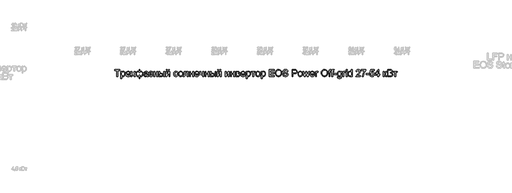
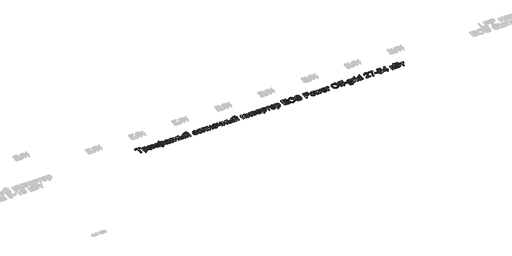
# One storey, part 11 of 26: 1 proxy.
"""IFC4 building model written with IfcOpenShell, lengths in millimetres."""

from ifc_helpers import new_model, si_unit, origin, origin_with_axes, place, context, project, spatial, polyline, outline, extrude, element, save

model = new_model("IFC4")

# Units and contexts
model_context = context("Model", 3, world=origin())
ifc_project = project(units=[si_unit("LENGTHUNIT", "METRE", prefix="MILLI")], contexts=[model_context])

# Site, building, storey
site = spatial("IfcSite", under=ifc_project)
building = spatial("IfcBuilding", under=site)
storey = spatial("IfcBuildingStorey", under=building, Name="Этаж 01", Elevation=0.0)

# Proxy
placement = place(None, origin())
element("IfcBuildingElementProxy", 1, Name="150 мм Arial", ObjectType="150 мм Arial", at=placement, inside=storey, context=model_context, shape_type="SweptSolid", body=[
    extrude(outline(polyline([(6127.3041906, -17235.0508328), (6127.3041906, -17103.2019258), (6077.8608505, -17103.2019258), (6077.8608505, -17084.3663676), (6195.5830889, -17084.3663676), (6195.5830889, -17103.2019258), (6146.1397488, -17103.2019258), (6146.1397488, -17235.0508328), (6127.3041906, -17235.0508328)])), origin_with_axes(), (0.0, 0.0, 1.0), 20.0),
    extrude(outline(polyline([(6214.4186471, -17277.4308387), (6214.4186471, -17124.3919287), (6233.2542052, -17124.3919287), (6233.2542052, -17142.8596048), (6246.2772278, -17127.2430141), (6263.8619872, -17122.0374839), (6276.5999013, -17123.8584998), (6287.7375287, -17129.3215474), (6296.8058199, -17138.095533), (6303.3357253, -17149.8493627), (6308.5964378, -17178.8752522), (6307.1111143, -17194.983885), (6302.6551436, -17209.3910637), (6295.3710801, -17221.3656226), (6285.401478, -17230.1763964), (6273.7902026, -17235.5980573), (6261.5811188, -17237.4052776), (6245.191976, -17232.5676294), (6233.2542052, -17220.335553), (6233.2542052, -17277.4308387), (6214.4186471, -17277.4308387)]), holes=[polyline([(6233.2542052, -17180.6042975), (6235.2913518, -17197.4900811), (6241.4027914, -17209.2990932), (6250.4204988, -17216.2520629), (6261.1764486, -17218.5697194), (6272.1071424, -17216.1692894), (6281.3547761, -17208.9679994), (6287.6593538, -17196.726726), (6289.7608797, -17179.206346), (6287.7099375, -17162.4125329), (6281.5571112, -17150.4379739), (6272.5531993, -17143.264275), (6261.9490008, -17140.8730421), (6251.3034156, -17143.4160263), (6241.9546144, -17151.0449792), (6235.4293075, -17163.5207774), (6233.2542052, -17180.6042975)])]), origin_with_axes(), (0.0, 0.0, 1.0), 20.0),
    extrude(outline(polyline([(6407.2623889, -17202.0886061), (6425.7300651, -17204.4430508), (6419.0759995, -17218.3581873), (6408.4580054, -17228.7600507), (6394.1152061, -17235.2439709), (6376.2867249, -17237.4052776), (6354.1862141, -17233.6758739), (6337.1808689, -17222.4876627), (6326.337547, -17204.567211), (6322.7231064, -17180.6410857), (6326.3743352, -17155.9102186), (6337.3280216, -17137.4149513), (6354.1034406, -17125.8818508), (6375.2198672, -17122.0374839), (6395.6787046, -17125.8726537), (6412.0264608, -17137.3781631), (6422.7456224, -17155.8366422), (6426.3186763, -17180.5307211), (6426.2083117, -17185.6074927), (6341.5586646, -17185.6074927), (6344.8190188, -17199.7065701), (6352.3927894, -17210.0716453), (6363.3234831, -17216.4452009), (6376.6546069, -17218.5697194), (6395.1222831, -17214.6333821), (6407.2623889, -17202.0886061)]), holes=[polyline([(6341.5586646, -17166.7719345), (6407.4831181, -17166.7719345), (6404.9355353, -17156.8207265), (6399.9415372, -17149.7022099), (6388.9602597, -17143.080334), (6375.1462908, -17140.8730421), (6362.4497634, -17142.6342771), (6351.951331, -17147.9179823), (6344.6534719, -17156.1539404), (6341.5586646, -17166.7719345)])]), origin_with_axes(), (0.0, 0.0, 1.0), 20.0),
    extrude(outline(polyline([(6433.3820106, -17235.0508328), (6473.6283009, -17179.4270752), (6435.7364554, -17124.3919287), (6458.3979863, -17124.3919287), (6476.6817214, -17150.8794323), (6485.2165837, -17163.3874202), (6492.6110118, -17153.1603007), (6513.4331327, -17124.3919287), (6536.0946636, -17124.3919287), (6496.2898318, -17179.4270752), (6534.6231357, -17235.0508328), (6511.9616048, -17235.0508328), (6488.8954037, -17201.6103595), (6484.6647607, -17195.5035183), (6456.0435415, -17235.0508328), (6433.3820106, -17235.0508328)])), origin_with_axes(), (0.0, 0.0, 1.0), 20.0),
    extrude(outline(polyline([(6614.6742578, -17084.3663676), (6633.509816, -17084.3663676), (6633.509816, -17135.0237183), (6645.4843749, -17125.2564514), (6659.519073, -17122.0374839), (6676.0047849, -17126.1301711), (6688.6737211, -17138.4082327), (6696.7441324, -17156.8943029), (6699.4342695, -17179.6110161), (6696.5371988, -17203.0221066), (6687.8459867, -17221.4575931), (6674.8505552, -17233.4183565), (6659.0408264, -17237.4052776), (6647.52612, -17235.5658676), (6633.509816, -17225.5226891), (6633.509816, -17277.4308387), (6614.6742578, -17277.4308387), (6614.6742578, -17225.5226891), (6602.6445166, -17234.4254334), (6588.4074834, -17237.4052776), (6572.6253458, -17233.5976989), (6558.9769237, -17222.174963), (6549.5407506, -17203.6613016), (6546.3953595, -17178.5809466), (6549.2418464, -17156.4988298), (6557.7813073, -17138.2978681), (6571.1308252, -17126.10258), (6588.4074834, -17122.0374839), (6602.9940045, -17125.2564514), (6614.6742578, -17135.0237183), (6614.6742578, -17084.3663676)]), holes=[polyline([(6565.2309177, -17178.1762764), (6567.1163129, -17196.6531496), (6572.7724986, -17209.1151522), (6581.2245874, -17216.2060776), (6591.4976921, -17218.5697194), (6601.7202131, -17216.2198732), (6608.990481, -17209.1703345), (6613.3360871, -17197.4211032), (6614.7846224, -17180.9721795), (6613.2625107, -17163.4288069), (6608.6961754, -17150.8978264), (6601.0580255, -17143.3792381), (6590.3204697, -17140.8730421), (6580.2405031, -17143.3194573), (6572.2206756, -17150.6587031), (6566.9783571, -17162.430927), (6565.2309177, -17178.1762764)]), polyline([(6633.3994514, -17180.0524745), (6634.9675484, -17199.1225575), (6639.6718394, -17210.7154388), (6646.7397722, -17216.6061493), (6655.3987947, -17218.5697194), (6665.0786897, -17216.1554938), (6673.2226773, -17208.9128171), (6678.7547028, -17196.5841717), (6680.5987113, -17178.9120404), (6678.8972571, -17162.1550155), (6673.7928944, -17150.2908211), (6666.0213873, -17143.2274868), (6656.3184997, -17140.8730421), (6646.325905, -17143.3240558), (6639.1568046, -17150.6770972), (6634.8387897, -17162.9229691), (6633.3994514, -17180.0524745)])]), origin_with_axes(), (0.0, 0.0, 1.0), 20.0),
    extrude(outline(polyline([(6793.6120603, -17220.9241642), (6775.3467192, -17233.6896694), (6755.1683918, -17237.4052776), (6739.4276409, -17235.1703945), (6727.8163654, -17228.4657451), (6720.6564621, -17218.2846109), (6718.2698277, -17205.6202732), (6721.8750712, -17190.7210524), (6731.3480326, -17179.9053217), (6744.5366021, -17173.7249042), (6760.8337745, -17170.8922129), (6793.5016957, -17164.4174897), (6793.6120603, -17160.223635), (6792.3152762, -17151.8175314), (6788.4249241, -17146.3176956), (6779.7245149, -17142.2342054), (6767.6028032, -17140.8730421), (6748.5465159, -17144.4966797), (6739.4598306, -17157.3541554), (6720.6242724, -17154.9997107), (6728.7728586, -17136.6056109), (6745.1803956, -17125.8266685), (6770.0308244, -17122.0374839), (6792.8579022, -17125.3852101), (6805.7521661, -17133.7913136), (6811.5279134, -17146.575213), (6812.4476184, -17163.0563264), (6812.4476184, -17186.4904095), (6813.4041116, -17219.2135129), (6817.156508, -17235.0508328), (6798.3209498, -17235.0508328), (6793.6120603, -17220.9241642)]), holes=[polyline([(6793.6120603, -17183.2530479), (6763.2250075, -17189.0287952), (6747.0198056, -17192.0822158), (6739.6805598, -17197.0486227), (6737.1053858, -17204.295898), (6742.7155862, -17214.4862293), (6759.1783055, -17218.5697194), (6778.2345929, -17214.063165), (6790.5218515, -17203.1554638), (6793.5016957, -17188.5873368), (6793.6120603, -17183.2530479)])]), origin_with_axes(), (0.0, 0.0, 1.0), 20.0),
    extrude(outline(polyline([(6864.2454033, -17185.6074927), (6864.2454033, -17166.7719345), (6879.1078359, -17166.0361705), (6886.6126286, -17162.1182273), (6890.1442958, -17153.9328529), (6885.4170122, -17144.4231033), (6873.221724, -17140.8730421), (6860.6217657, -17144.4047092), (6852.4731795, -17154.9997107), (6831.2831766, -17152.6452659), (6836.902574, -17139.2543613), (6845.4466334, -17129.6894294), (6856.9153546, -17123.9504703), (6871.3087376, -17122.0374839), (6887.054087, -17124.368936), (6898.9734637, -17131.3632925), (6906.4782564, -17141.5950105), (6908.979854, -17153.6385473), (6905.4205957, -17165.3371947), (6894.7428207, -17174.3870918), (6907.1956263, -17186.1225275), (6911.3342987, -17203.008311), (6908.708541, -17216.8728637), (6900.8312678, -17227.8587398), (6888.235908, -17235.0186431), (6871.4558904, -17237.4052776), (6855.0437549, -17235.1979856), (6842.4851833, -17228.5761097), (6833.7801756, -17217.5396499), (6828.9287318, -17202.0886061), (6850.1187347, -17199.7341613), (6858.6168088, -17213.6401007), (6873.2585122, -17218.5697194), (6887.0172988, -17213.8424358), (6892.4987406, -17201.7575123), (6889.0958321, -17191.8614866), (6881.8485568, -17186.5639859), (6867.9242233, -17185.4971281), (6864.2454033, -17185.6074927)])), origin_with_axes(), (0.0, 0.0, 1.0), 20.0),
    extrude(outline(polyline([(6934.8787464, -17124.3919287), (6953.7143046, -17124.3919287), (6953.7143046, -17166.7719345), (7003.1576447, -17166.7719345), (7003.1576447, -17124.3919287), (7021.9932029, -17124.3919287), (7021.9932029, -17235.0508328), (7003.1576447, -17235.0508328), (7003.1576447, -17185.6074927), (6953.7143046, -17185.6074927), (6953.7143046, -17235.0508328), (6934.8787464, -17235.0508328), (6934.8787464, -17124.3919287)])), origin_with_axes(), (0.0, 0.0, 1.0), 20.0),
    extrude(outline(polyline([(7153.8421099, -17124.3919287), (7172.6776681, -17124.3919287), (7172.6776681, -17235.0508328), (7153.8421099, -17235.0508328), (7153.8421099, -17124.3919287)])), origin_with_axes(), (0.0, 0.0, 1.0), 20.0),
    extrude(outline(polyline([(7050.2465401, -17124.3919287), (7069.0820983, -17124.3919287), (7069.0820983, -17164.4174897), (7092.3690285, -17164.4174897), (7112.4967722, -17166.776533), (7127.4097886, -17173.8536629), (7136.6390281, -17185.0786623), (7139.7154413, -17199.8813141), (7137.1356688, -17213.3595907), (7129.3963514, -17224.7317429), (7115.9916512, -17232.4710603), (7096.4157305, -17235.0508328), (7050.2465401, -17235.0508328), (7050.2465401, -17124.3919287)]), holes=[polyline([(7069.0820983, -17216.2152747), (7088.4326912, -17216.2152747), (7113.4118787, -17212.2605432), (7119.0128821, -17207.1975673), (7120.8798832, -17199.9181023), (7115.3432591, -17188.3298194), (7106.4635075, -17184.5222408), (7090.8975006, -17183.2530479), (7069.0820983, -17183.2530479), (7069.0820983, -17216.2152747)])]), origin_with_axes(), (0.0, 0.0, 1.0), 20.0),
    extrude(outline(polyline([(7200.9310053, -17124.3919287), (7219.7665635, -17124.3919287), (7219.7665635, -17208.7840584), (7266.0461185, -17124.3919287), (7290.3999066, -17124.3919287), (7290.3999066, -17235.0508328), (7271.5643484, -17235.0508328), (7271.5643484, -17151.1737379), (7225.579099, -17235.0508328), (7200.9310053, -17235.0508328), (7200.9310053, -17124.3919287)])), origin_with_axes(), (0.0, 0.0, 1.0), 20.0),
    extrude(outline(polyline([(7262.1465693, -17084.3663676), (7276.2732379, -17084.3663676), (7273.233613, -17096.4282985), (7267.1313704, -17105.3172472), (7258.2424216, -17110.7940904), (7246.8426783, -17112.6197048), (7234.4726462, -17110.807886), (7224.8801232, -17105.3724295), (7218.3226266, -17096.4972764), (7215.0576739, -17084.3663676), (7229.1843426, -17084.3663676), (7234.4818433, -17094.9797632), (7245.1504211, -17098.4930362), (7256.8490686, -17095.0901278), (7262.1465693, -17084.3663676)])), origin_with_axes(), (0.0, 0.0, 1.0), 20.0),
    extrude(outline(polyline([(7448.1477061, -17195.0252717), (7466.9832642, -17197.3797165), (7461.7317488, -17214.1321429), (7451.8633142, -17226.791882), (7438.3068627, -17234.7519287), (7421.9912962, -17237.4052776), (7401.9555231, -17233.703465), (7386.2883486, -17222.5980273), (7376.1761923, -17204.576408), (7372.8054735, -17180.1260509), (7374.2448118, -17163.3644275), (7378.5628267, -17148.8376873), (7385.8284961, -17137.1068501), (7396.1107979, -17128.7329362), (7408.4118521, -17123.711347), (7421.7337788, -17122.0374839), (7437.6492736, -17124.3367464), (7450.3733922, -17131.2345338), (7459.5014642, -17142.3629641), (7464.6288195, -17157.3541554), (7445.7932613, -17159.7086002), (7437.0560639, -17145.6003257), (7421.8809316, -17140.8730421), (7409.7086361, -17143.1998957), (7400.0471352, -17150.1804565), (7393.7425575, -17162.1918037), (7391.6410316, -17179.6110161), (7393.6965723, -17197.2647534), (7399.8631942, -17209.3174873), (7409.3499512, -17216.2566614), (7421.3658968, -17218.5697194), (7431.1193682, -17217.1257826), (7439.1162031, -17212.7939721), (7444.9333372, -17205.4639234), (7448.1477061, -17195.0252717)])), origin_with_axes(), (0.0, 0.0, 1.0), 20.0),
    extrude(outline(polyline([(7478.7554881, -17179.7213807), (7482.8297812, -17153.040739), (7495.0526605, -17134.2879543), (7510.1542164, -17125.1001015), (7528.2356164, -17122.0374839), (7548.0230693, -17125.7668876), (7563.8281995, -17136.9550988), (7574.1886762, -17154.7192007), (7577.6421684, -17178.1762764), (7576.1154581, -17197.2049726), (7571.5353273, -17211.6903261), (7564.0351331, -17222.5382465), (7553.7482328, -17230.654643), (7541.529952, -17235.7176189), (7528.2356164, -17237.4052776), (7508.2090403, -17233.6896694), (7492.4223042, -17222.542845), (7482.1721921, -17204.4062626), (7478.7554881, -17179.7213807)]), holes=[polyline([(7497.5910462, -17179.6845925), (7499.7707471, -17196.7313245), (7506.3098495, -17208.8760289), (7516.1506929, -17216.1462968), (7528.2356164, -17218.5697194), (7540.2653577, -17216.1325012), (7550.0878069, -17208.8208466), (7556.6269094, -17196.5151938), (7558.8066102, -17179.0959814), (7556.6131138, -17162.5458901), (7550.0326246, -17150.5667326), (7540.1963798, -17143.2964647), (7528.2356164, -17140.8730421), (7516.1506929, -17143.2872677), (7506.3098495, -17150.5299444), (7499.7707471, -17162.6470576), (7497.5910462, -17179.6845925)])]), origin_with_axes(), (0.0, 0.0, 1.0), 20.0),
    extrude(outline(polyline([(7608.2499504, -17124.3919287), (7693.0099621, -17124.3919287), (7693.0099621, -17234.9404682), (7674.1744039, -17234.9404682), (7674.1744039, -17143.2274868), (7627.0855085, -17143.2274868), (7627.0855085, -17196.0185531), (7625.8163157, -17220.3723412), (7618.8449518, -17230.654643), (7602.3638385, -17235.0508328), (7587.0599475, -17234.0943396), (7587.0599475, -17216.2152747), (7595.4844452, -17216.2152747), (7604.0009133, -17215.0564464), (7607.4038218, -17211.3776264), (7608.2499504, -17194.9516953), (7608.2499504, -17124.3919287)])), origin_with_axes(), (0.0, 0.0, 1.0), 20.0),
    extrude(outline(polyline([(7721.2632993, -17124.3919287), (7740.0988575, -17124.3919287), (7740.0988575, -17166.7719345), (7789.5421976, -17166.7719345), (7789.5421976, -17124.3919287), (7808.3777558, -17124.3919287), (7808.3777558, -17235.0508328), (7789.5421976, -17235.0508328), (7789.5421976, -17185.6074927), (7740.0988575, -17185.6074927), (7740.0988575, -17235.0508328), (7721.2632993, -17235.0508328), (7721.2632993, -17124.3919287)])), origin_with_axes(), (0.0, 0.0, 1.0), 20.0),
    extrude(outline(polyline([(7914.1070412, -17202.0886061), (7932.5747173, -17204.4430508), (7925.9206517, -17218.3581873), (7915.3026577, -17228.7600507), (7900.9598584, -17235.2439709), (7883.1313772, -17237.4052776), (7861.0308663, -17233.6758739), (7844.0255211, -17222.4876627), (7833.1821993, -17204.567211), (7829.5677587, -17180.6410857), (7833.2189875, -17155.9102186), (7844.1726739, -17137.4149513), (7860.9480929, -17125.8818508), (7882.0645194, -17122.0374839), (7902.5233569, -17125.8726537), (7918.871113, -17137.3781631), (7929.5902746, -17155.8366422), (7933.1633285, -17180.5307211), (7933.0529639, -17185.6074927), (7848.4033168, -17185.6074927), (7851.663671, -17199.7065701), (7859.2374416, -17210.0716453), (7870.1681354, -17216.4452009), (7883.4992592, -17218.5697194), (7901.9669353, -17214.6333821), (7914.1070412, -17202.0886061)]), holes=[polyline([(7848.4033168, -17166.7719345), (7914.3277704, -17166.7719345), (7911.7801876, -17156.8207265), (7906.7861895, -17149.7022099), (7895.8049119, -17143.080334), (7881.990943, -17140.8730421), (7869.2944156, -17142.6342771), (7858.7959832, -17147.9179823), (7851.4981241, -17156.1539404), (7848.4033168, -17166.7719345)])]), origin_with_axes(), (0.0, 0.0, 1.0), 20.0),
    extrude(outline(polyline([(7944.9355524, -17124.3919287), (7963.7711105, -17124.3919287), (7963.7711105, -17145.6187198), (7965.2978208, -17165.5211357), (7972.6370666, -17176.3000782), (7987.2051936, -17180.8986031), (8013.2144507, -17175.1964322), (8013.2144507, -17124.3919287), (8032.0500088, -17124.3919287), (8032.0500088, -17235.0508328), (8013.2144507, -17235.0508328), (8013.2144507, -17193.2594382), (7982.1652103, -17199.7341613), (7970.774664, -17198.0465026), (7960.8096605, -17192.9835267), (7953.0427518, -17185.4741354), (7948.2464903, -17176.447231), (7944.9355524, -17154.9261343), (7944.9355524, -17124.3919287)])), origin_with_axes(), (0.0, 0.0, 1.0), 20.0),
    extrude(outline(polyline([(8060.3033461, -17124.3919287), (8079.1389042, -17124.3919287), (8079.1389042, -17166.7719345), (8128.5822444, -17166.7719345), (8128.5822444, -17124.3919287), (8147.4178025, -17124.3919287), (8147.4178025, -17235.0508328), (8128.5822444, -17235.0508328), (8128.5822444, -17185.6074927), (8079.1389042, -17185.6074927), (8079.1389042, -17235.0508328), (8060.3033461, -17235.0508328), (8060.3033461, -17124.3919287)])), origin_with_axes(), (0.0, 0.0, 1.0), 20.0),
    extrude(outline(polyline([(8279.2667096, -17124.3919287), (8298.1022677, -17124.3919287), (8298.1022677, -17235.0508328), (8279.2667096, -17235.0508328), (8279.2667096, -17124.3919287)])), origin_with_axes(), (0.0, 0.0, 1.0), 20.0),
    extrude(outline(polyline([(8175.6711397, -17124.3919287), (8194.5066979, -17124.3919287), (8194.5066979, -17164.4174897), (8217.7936282, -17164.4174897), (8237.9213719, -17166.776533), (8252.8343882, -17173.8536629), (8262.0636278, -17185.0786623), (8265.140041, -17199.8813141), (8262.5602685, -17213.3595907), (8254.820951, -17224.7317429), (8241.4162508, -17232.4710603), (8221.8403301, -17235.0508328), (8175.6711397, -17235.0508328), (8175.6711397, -17124.3919287)]), holes=[polyline([(8194.5066979, -17216.2152747), (8213.8572908, -17216.2152747), (8238.8364783, -17212.2605432), (8244.4374817, -17207.1975673), (8246.3044828, -17199.9181023), (8240.7678588, -17188.3298194), (8231.8881071, -17184.5222408), (8216.3221002, -17183.2530479), (8194.5066979, -17183.2530479), (8194.5066979, -17216.2152747)])]), origin_with_axes(), (0.0, 0.0, 1.0), 20.0),
    extrude(outline(polyline([(8326.355605, -17124.3919287), (8345.1911631, -17124.3919287), (8345.1911631, -17208.7840584), (8391.4707181, -17124.3919287), (8415.8245062, -17124.3919287), (8415.8245062, -17235.0508328), (8396.988948, -17235.0508328), (8396.988948, -17151.1737379), (8351.0036986, -17235.0508328), (8326.355605, -17235.0508328), (8326.355605, -17124.3919287)])), origin_with_axes(), (0.0, 0.0, 1.0), 20.0),
    extrude(outline(polyline([(8387.571169, -17084.3663676), (8401.6978376, -17084.3663676), (8398.6582126, -17096.4282985), (8392.55597, -17105.3172472), (8383.6670213, -17110.7940904), (8372.267278, -17112.6197048), (8359.8972459, -17110.807886), (8350.3047229, -17105.3724295), (8343.7472263, -17096.4972764), (8340.4822736, -17084.3663676), (8354.6089422, -17084.3663676), (8359.9064429, -17094.9797632), (8370.5750208, -17098.4930362), (8382.2736682, -17095.0901278), (8387.571169, -17084.3663676)])), origin_with_axes(), (0.0, 0.0, 1.0), 20.0),
    extrude(outline(polyline([(8502.9389627, -17124.3919287), (8521.7745208, -17124.3919287), (8521.7745208, -17208.7840584), (8568.0540758, -17124.3919287), (8592.4078639, -17124.3919287), (8592.4078639, -17235.0508328), (8573.5723057, -17235.0508328), (8573.5723057, -17151.1737379), (8527.5870563, -17235.0508328), (8502.9389627, -17235.0508328), (8502.9389627, -17124.3919287)])), origin_with_axes(), (0.0, 0.0, 1.0), 20.0),
    extrude(outline(polyline([(8620.6612011, -17124.3919287), (8639.4967593, -17124.3919287), (8639.4967593, -17166.7719345), (8688.9400994, -17166.7719345), (8688.9400994, -17124.3919287), (8707.7756576, -17124.3919287), (8707.7756576, -17235.0508328), (8688.9400994, -17235.0508328), (8688.9400994, -17185.6074927), (8639.4967593, -17185.6074927), (8639.4967593, -17235.0508328), (8620.6612011, -17235.0508328), (8620.6612011, -17124.3919287)])), origin_with_axes(), (0.0, 0.0, 1.0), 20.0),
    extrude(outline(polyline([(8736.0289948, -17124.3919287), (8777.5260839, -17124.3919287), (8800.2795853, -17126.9119203), (8813.0818787, -17136.1457584), (8818.4345617, -17152.2405957), (8815.1972002, -17165.3188006), (8805.4483273, -17174.6446092), (8818.1034679, -17184.8533346), (8823.1434513, -17202.6036408), (8819.9520749, -17216.9602357), (8812.3645088, -17227.0677935), (8800.3531617, -17233.055073), (8783.8904424, -17235.0508328), (8736.0289948, -17235.0508328), (8736.0289948, -17124.3919287)]), holes=[polyline([(8754.864553, -17166.7719345), (8773.4793819, -17166.7719345), (8788.8384552, -17165.8154413), (8796.3064597, -17161.9894686), (8799.5990036, -17155.0732871), (8798.1550667, -17149.4538896), (8793.8232562, -17145.839449), (8774.0679931, -17143.2274868), (8754.864553, -17143.2274868), (8754.864553, -17166.7719345)]), polyline([(8754.864553, -17216.2152747), (8777.9675423, -17216.2152747), (8798.4585694, -17212.8123662), (8802.6984094, -17208.1724545), (8804.3078931, -17201.0585365), (8801.0889256, -17191.9902453), (8792.7012162, -17186.7111387), (8776.1281323, -17185.6074927), (8754.864553, -17185.6074927), (8754.864553, -17216.2152747)])]), origin_with_axes(), (0.0, 0.0, 1.0), 20.0),
    extrude(outline(polyline([(8924.1638471, -17202.0886061), (8942.6315233, -17204.4430508), (8935.9774577, -17218.3581873), (8925.3594636, -17228.7600507), (8911.0166643, -17235.2439709), (8893.1881831, -17237.4052776), (8871.0876723, -17233.6758739), (8854.0823271, -17222.4876627), (8843.2390052, -17204.567211), (8839.6245646, -17180.6410857), (8843.2757934, -17155.9102186), (8854.2294799, -17137.4149513), (8871.0048988, -17125.8818508), (8892.1213254, -17122.0374839), (8912.5801628, -17125.8726537), (8928.927919, -17137.3781631), (8939.6470806, -17155.8366422), (8943.2201345, -17180.5307211), (8943.1097699, -17185.6074927), (8858.4601228, -17185.6074927), (8861.720477, -17199.7065701), (8869.2942476, -17210.0716453), (8880.2249413, -17216.4452009), (8893.5560651, -17218.5697194), (8912.0237413, -17214.6333821), (8924.1638471, -17202.0886061)]), holes=[polyline([(8858.4601228, -17166.7719345), (8924.3845763, -17166.7719345), (8921.8369935, -17156.8207265), (8916.8429954, -17149.7022099), (8905.8617179, -17143.080334), (8892.047749, -17140.8730421), (8879.3512216, -17142.6342771), (8868.8527892, -17147.9179823), (8861.5549301, -17156.1539404), (8858.4601228, -17166.7719345)])]), origin_with_axes(), (0.0, 0.0, 1.0), 20.0),
    extrude(outline(polyline([(8962.0556926, -17277.4308387), (8962.0556926, -17124.3919287), (8980.8912508, -17124.3919287), (8980.8912508, -17142.8596048), (8993.9142734, -17127.2430141), (9011.4990328, -17122.0374839), (9024.2369469, -17123.8584998), (9035.3745743, -17129.3215474), (9044.4428655, -17138.095533), (9050.9727709, -17149.8493627), (9056.2334834, -17178.8752522), (9054.7481598, -17194.983885), (9050.2921892, -17209.3910637), (9043.0081257, -17221.3656226), (9033.0385236, -17230.1763964), (9021.4272481, -17235.5980573), (9009.2181644, -17237.4052776), (8992.8290215, -17232.5676294), (8980.8912508, -17220.335553), (8980.8912508, -17277.4308387), (8962.0556926, -17277.4308387)]), holes=[polyline([(8980.8912508, -17180.6042975), (8982.9283973, -17197.4900811), (8989.039837, -17209.2990932), (8998.0575444, -17216.2520629), (9008.8134942, -17218.5697194), (9019.744188, -17216.1692894), (9028.9918217, -17208.9679994), (9035.2963994, -17196.726726), (9037.3979252, -17179.206346), (9035.3469831, -17162.4125329), (9029.1941568, -17150.4379739), (9020.1902449, -17143.264275), (9009.5860464, -17140.8730421), (8998.9404612, -17143.4160263), (8989.59166, -17151.0449792), (8983.0663531, -17163.5207774), (8980.8912508, -17180.6042975)])]), origin_with_axes(), (0.0, 0.0, 1.0), 20.0),
    extrude(outline(polyline([(9068.0057072, -17124.3919287), (9157.4746085, -17124.3919287), (9157.4746085, -17143.2274868), (9122.1579369, -17143.2274868), (9122.1579369, -17235.0508328), (9103.3223788, -17235.0508328), (9103.3223788, -17143.2274868), (9068.0057072, -17143.2274868), (9068.0057072, -17124.3919287)])), origin_with_axes(), (0.0, 0.0, 1.0), 20.0),
    extrude(outline(polyline([(9169.2468323, -17179.7213807), (9173.3211254, -17153.040739), (9185.5440047, -17134.2879543), (9200.6455606, -17125.1001015), (9218.7269607, -17122.0374839), (9238.5144135, -17125.7668876), (9254.3195437, -17136.9550988), (9264.6800204, -17154.7192007), (9268.1335126, -17178.1762764), (9266.6068023, -17197.2049726), (9262.0266715, -17211.6903261), (9254.5264773, -17222.5382465), (9244.239577, -17230.654643), (9232.0212963, -17235.7176189), (9218.7269607, -17237.4052776), (9198.7003846, -17233.6896694), (9182.9136484, -17222.542845), (9172.6635364, -17204.4062626), (9169.2468323, -17179.7213807)]), holes=[polyline([(9188.0823905, -17179.6845925), (9190.2620913, -17196.7313245), (9196.8011938, -17208.8760289), (9206.6420371, -17216.1462968), (9218.7269607, -17218.5697194), (9230.7567019, -17216.1325012), (9240.5791512, -17208.8208466), (9247.1182536, -17196.5151938), (9249.2979545, -17179.0959814), (9247.1044581, -17162.5458901), (9240.5239689, -17150.5667326), (9230.687724, -17143.2964647), (9218.7269607, -17140.8730421), (9206.6420371, -17143.2872677), (9196.8011938, -17150.5299444), (9190.2620913, -17162.6470576), (9188.0823905, -17179.6845925)])]), origin_with_axes(), (0.0, 0.0, 1.0), 20.0),
    extrude(outline(polyline([(9289.3235155, -17277.4308387), (9289.3235155, -17124.3919287), (9308.1590737, -17124.3919287), (9308.1590737, -17142.8596048), (9321.1820963, -17127.2430141), (9338.7668557, -17122.0374839), (9351.5047698, -17123.8584998), (9362.6423972, -17129.3215474), (9371.7106884, -17138.095533), (9378.2405938, -17149.8493627), (9383.5013063, -17178.8752522), (9382.0159828, -17194.983885), (9377.5600121, -17209.3910637), (9370.2759486, -17221.3656226), (9360.3063465, -17230.1763964), (9348.695071, -17235.5980573), (9336.4859873, -17237.4052776), (9320.0968444, -17232.5676294), (9308.1590737, -17220.335553), (9308.1590737, -17277.4308387), (9289.3235155, -17277.4308387)]), holes=[polyline([(9308.1590737, -17180.6042975), (9310.1962202, -17197.4900811), (9316.3076599, -17209.2990932), (9325.3253673, -17216.2520629), (9336.0813171, -17218.5697194), (9347.0120109, -17216.1692894), (9356.2596446, -17208.9679994), (9362.5642223, -17196.726726), (9364.6657482, -17179.206346), (9362.614806, -17162.4125329), (9356.4619797, -17150.4379739), (9347.4580678, -17143.264275), (9336.8538693, -17140.8730421), (9326.2082841, -17143.4160263), (9316.8594829, -17151.0449792), (9310.334176, -17163.5207774), (9308.1590737, -17180.6042975)])]), origin_with_axes(), (0.0, 0.0, 1.0), 20.0),
    extrude(outline(polyline([(9465.9068732, -17235.0508328), (9465.9068732, -17084.3663676), (9574.2113326, -17084.3663676), (9574.2113326, -17103.2019258), (9484.7424314, -17103.2019258), (9484.7424314, -17147.9363764), (9569.5024431, -17147.9363764), (9569.5024431, -17166.7719345), (9484.7424314, -17166.7719345), (9484.7424314, -17216.2152747), (9576.5657774, -17216.2152747), (9576.5657774, -17235.0508328), (9465.9068732, -17235.0508328)])), origin_with_axes(), (0.0, 0.0, 1.0), 20.0),
    extrude(outline(polyline([(9597.7557803, -17161.695163), (9602.7773695, -17128.3742513), (9609.0543561, -17114.7557197), (9617.8421372, -17103.1651376), (9640.843959, -17087.3002265), (9669.6767104, -17082.0119228), (9689.4411706, -17084.4951263), (9707.1638857, -17091.9447367), (9721.8791655, -17103.8365222), (9732.6213197, -17119.6462509), (9739.1880133, -17138.6105678), (9741.3769112, -17159.9661176), (9739.0730502, -17181.606776), (9732.1614672, -17200.8378073), (9721.0238398, -17216.6751272), (9706.0418456, -17228.1346513), (9688.4708818, -17235.087621), (9669.5663458, -17237.4052776), (9649.4983829, -17234.8438992), (9631.6745003, -17227.159764), (9616.9960086, -17215.0472493), (9606.364219, -17199.2007324), (9599.90789, -17180.967581), (9597.7557803, -17161.695163)]), holes=[polyline([(9616.5913385, -17161.879104), (9620.3575304, -17185.4511428), (9631.6561062, -17203.4129812), (9648.6384588, -17214.7805349), (9669.4559812, -17218.5697194), (9690.5770062, -17214.7437467), (9707.58695, -17203.2658284), (9718.8027523, -17184.752167), (9722.5413531, -17159.8189648), (9720.9410664, -17143.1447134), (9716.1402064, -17128.7329362), (9708.2629331, -17116.9469168), (9697.4334069, -17108.1499386), (9684.3689975, -17102.6730954), (9669.787075, -17100.847481), (9649.5259741, -17104.3653526), (9632.2998996, -17114.9189673), (9620.5184788, -17133.6947446), (9616.5913385, -17161.879104)])]), origin_with_axes(), (0.0, 0.0, 1.0), 20.0),
    extrude(outline(polyline([(9760.2124694, -17183.2530479), (9779.0480275, -17183.2530479), (9785.1180804, -17202.1070002), (9799.9437249, -17214.0263768), (9822.5316794, -17218.5697194), (9842.2133661, -17215.1300228), (9854.923689, -17205.6754555), (9859.0991497, -17193.038709), (9855.9721527, -17181.2848792), (9843.1698593, -17172.7316228), (9815.7442565, -17165.5395298), (9786.2217264, -17156.2505095), (9770.2004655, -17142.2342054), (9764.9213589, -17123.5090119), (9766.5538353, -17112.4771506), (9771.4512643, -17102.1902503), (9779.4848874, -17093.471447), (9790.5259458, -17087.1438767), (9818.4481892, -17082.0119228), (9848.2466308, -17087.383), (9859.6693668, -17094.0140729), (9868.1122586, -17103.1651376), (9873.4557445, -17114.2659768), (9875.5802631, -17126.7463734), (9856.7447049, -17126.7463734), (9853.2866142, -17115.5075785), (9846.076127, -17107.3957805), (9834.8097409, -17102.4845559), (9819.1839532, -17100.847481), (9803.1902835, -17102.4661618), (9792.218203, -17107.3222041), (9785.8722385, -17114.4683119), (9783.7569171, -17122.9571889), (9785.2560362, -17130.1952671), (9789.7533936, -17136.0169997), (9820.5083284, -17146.5384248), (9853.8384371, -17155.9929921), (9864.5759929, -17162.8264001), (9872.06699, -17171.2600949), (9876.4677784, -17181.2021058), (9877.9347078, -17192.5604624), (9876.2470492, -17204.1717379), (9871.1840732, -17215.0932346), (9862.9527136, -17224.4926196), (9851.7599039, -17231.5375598), (9838.3000214, -17235.9383481), (9823.2674433, -17237.4052776), (9804.8135628, -17235.823385), (9789.6246349, -17231.0777073), (9777.5259158, -17223.1498503), (9768.3426615, -17212.0214199), (9762.4473525, -17198.4649684), (9760.2124694, -17183.2530479)])), origin_with_axes(), (0.0, 0.0, 1.0), 20.0),
    extrude(outline(polyline([(9965.0491643, -17235.0508328), (9965.0491643, -17084.3663676), (10020.8936512, -17084.3663676), (10043.4080293, -17085.8011074), (10061.7101585, -17092.8460476), (10073.5743529, -17107.4141746), (10078.0625132, -17127.960384), (10075.0320853, -17145.7198873), (10065.9408015, -17160.5179406), (10048.9400548, -17170.5059368), (10022.1812381, -17173.8352688), (9983.8847224, -17173.8352688), (9983.8847224, -17235.0508328), (9965.0491643, -17235.0508328)]), holes=[polyline([(9983.8847224, -17154.9997107), (10023.2848841, -17154.9997107), (10039.9867267, -17153.2706653), (10051.0231866, -17148.0835292), (10057.1760129, -17139.760199), (10059.2269551, -17128.6225716), (10054.3893068, -17113.024375), (10041.6789839, -17104.4895127), (10022.8434257, -17103.2019258), (9983.8847224, -17103.2019258), (9983.8847224, -17154.9997107)])]), origin_with_axes(), (0.0, 0.0, 1.0), 20.0),
    extrude(outline(polyline([(10096.8980714, -17179.7213807), (10100.9723645, -17153.040739), (10113.1952437, -17134.2879543), (10128.2967996, -17125.1001015), (10146.3781997, -17122.0374839), (10166.1656525, -17125.7668876), (10181.9707827, -17136.9550988), (10192.3312594, -17154.7192007), (10195.7847517, -17178.1762764), (10194.2580414, -17197.2049726), (10189.6779105, -17211.6903261), (10182.1777164, -17222.5382465), (10171.8908161, -17230.654643), (10159.6725353, -17235.7176189), (10146.3781997, -17237.4052776), (10126.3516236, -17233.6896694), (10110.5648875, -17222.542845), (10100.3147754, -17204.4062626), (10096.8980714, -17179.7213807)]), holes=[polyline([(10115.7336295, -17179.6845925), (10117.9133303, -17196.7313245), (10124.4524328, -17208.8760289), (10134.2932762, -17216.1462968), (10146.3781997, -17218.5697194), (10158.407941, -17216.1325012), (10168.2303902, -17208.8208466), (10174.7694927, -17196.5151938), (10176.9491935, -17179.0959814), (10174.7556971, -17162.5458901), (10168.1752079, -17150.5667326), (10158.3389631, -17143.2964647), (10146.3781997, -17140.8730421), (10134.2932762, -17143.2872677), (10124.4524328, -17150.5299444), (10117.9133303, -17162.6470576), (10115.7336295, -17179.6845925)])]), origin_with_axes(), (0.0, 0.0, 1.0), 20.0),
    extrude(outline(polyline([(10235.3320661, -17235.0508328), (10201.6708636, -17124.3919287), (10221.2421857, -17124.3919287), (10240.3352613, -17188.9552188), (10246.0374322, -17212.0214199), (10250.7095335, -17189.8013474), (10265.9030599, -17124.3919287), (10288.3438616, -17124.3919287), (10303.4638116, -17189.6174064), (10307.6208782, -17209.7405516), (10313.5805665, -17188.5137604), (10332.7104303, -17124.3919287), (10352.3553288, -17124.3919287), (10318.4366089, -17235.0508328), (10295.6647134, -17235.0508328), (10281.2069509, -17170.1564489), (10277.0130962, -17149.9229391), (10258.361479, -17235.0508328), (10235.3320661, -17235.0508328)])), origin_with_axes(), (0.0, 0.0, 1.0), 20.0),
    extrude(outline(polyline([(10442.7807232, -17202.0886061), (10461.2483994, -17204.4430508), (10454.5943338, -17218.3581873), (10443.9763397, -17228.7600507), (10429.6335404, -17235.2439709), (10411.8050592, -17237.4052776), (10389.7045484, -17233.6758739), (10372.6992031, -17222.4876627), (10361.8558813, -17204.567211), (10358.2414407, -17180.6410857), (10361.8926695, -17155.9102186), (10372.8463559, -17137.4149513), (10389.6217749, -17125.8818508), (10410.7382014, -17122.0374839), (10431.1970389, -17125.8726537), (10447.5447951, -17137.3781631), (10458.2639567, -17155.8366422), (10461.8370106, -17180.5307211), (10461.726646, -17185.6074927), (10377.0769989, -17185.6074927), (10380.3373531, -17199.7065701), (10387.9111236, -17210.0716453), (10398.8418174, -17216.4452009), (10412.1729412, -17218.5697194), (10430.6406174, -17214.6333821), (10442.7807232, -17202.0886061)]), holes=[polyline([(10377.0769989, -17166.7719345), (10443.0014524, -17166.7719345), (10440.4538696, -17156.8207265), (10435.4598715, -17149.7022099), (10424.478594, -17143.080334), (10410.664625, -17140.8730421), (10397.9680977, -17142.6342771), (10387.4696652, -17147.9179823), (10380.1718062, -17156.1539404), (10377.0769989, -17166.7719345)])]), origin_with_axes(), (0.0, 0.0, 1.0), 20.0),
    extrude(outline(polyline([(10480.6725687, -17235.0508328), (10480.6725687, -17124.3919287), (10497.1536821, -17124.3919287), (10497.1536821, -17140.7626775), (10508.8523296, -17125.6795157), (10520.6245534, -17122.0374839), (10539.533688, -17127.8500194), (10533.2429058, -17144.735803), (10519.999154, -17140.8730421), (10509.3489703, -17144.5886502), (10502.5615474, -17154.8893461), (10499.5081269, -17176.8886894), (10499.5081269, -17235.0508328), (10480.6725687, -17235.0508328)])), origin_with_axes(), (0.0, 0.0, 1.0), 20.0),
    extrude(outline(polyline([(10605.4581415, -17161.695163), (10610.4797307, -17128.3742513), (10616.7567173, -17114.7557197), (10625.5444984, -17103.1651376), (10648.5463202, -17087.3002265), (10677.3790715, -17082.0119228), (10697.1435317, -17084.4951263), (10714.8662469, -17091.9447367), (10729.5815267, -17103.8365222), (10740.3236809, -17119.6462509), (10746.8903745, -17138.6105678), (10749.0792724, -17159.9661176), (10746.7754114, -17181.606776), (10739.8638284, -17200.8378073), (10728.726201, -17216.6751272), (10713.7442068, -17228.1346513), (10696.173243, -17235.087621), (10677.2687069, -17237.4052776), (10657.2007441, -17234.8438992), (10639.3768614, -17227.159764), (10624.6983698, -17215.0472493), (10614.0665802, -17199.2007324), (10607.6102512, -17180.967581), (10605.4581415, -17161.695163)]), holes=[polyline([(10624.2936996, -17161.879104), (10628.0598916, -17185.4511428), (10639.3584673, -17203.4129812), (10656.3408199, -17214.7805349), (10677.1583424, -17218.5697194), (10698.2793674, -17214.7437467), (10715.2893112, -17203.2658284), (10726.5051135, -17184.752167), (10730.2437143, -17159.8189648), (10728.6434276, -17143.1447134), (10723.8425675, -17128.7329362), (10715.9652943, -17116.9469168), (10705.1357681, -17108.1499386), (10692.0713587, -17102.6730954), (10677.4894361, -17100.847481), (10657.2283353, -17104.3653526), (10640.0022608, -17114.9189673), (10628.2208399, -17133.6947446), (10624.2936996, -17161.879104)])]), origin_with_axes(), (0.0, 0.0, 1.0), 20.0),
    extrude(outline(polyline([(10885.637069, -17190.3163822), (10885.637069, -17171.4808241), (10944.4981882, -17171.4808241), (10944.4981882, -17190.3163822), (10885.637069, -17190.3163822)])), origin_with_axes(), (0.0, 0.0, 1.0), 20.0),
    extrude(outline(polyline([(10838.5481736, -17235.0508328), (10838.5481736, -17143.2274868), (10822.0670603, -17143.2274868), (10822.0670603, -17124.3919287), (10838.5481736, -17124.3919287), (10838.5481736, -17113.2451042), (10840.5347364, -17097.536543), (10850.1732447, -17086.3161422), (10869.1559556, -17082.0119228), (10886.3360448, -17084.072062), (10883.5769298, -17101.7303978), (10872.724411, -17100.847481), (10860.8602166, -17103.9744779), (10857.3837318, -17115.6363372), (10857.3837318, -17124.3919287), (10878.5737347, -17124.3919287), (10878.5737347, -17143.2274868), (10857.3837318, -17143.2274868), (10857.3837318, -17235.0508328), (10838.5481736, -17235.0508328)])), origin_with_axes(), (0.0, 0.0, 1.0), 20.0),
    extrude(outline(polyline([(10777.3326096, -17235.0508328), (10777.3326096, -17143.2274868), (10760.8514963, -17143.2274868), (10760.8514963, -17124.3919287), (10777.3326096, -17124.3919287), (10777.3326096, -17113.2451042), (10779.3191724, -17097.536543), (10788.9576807, -17086.3161422), (10807.9403916, -17082.0119228), (10825.1204808, -17084.072062), (10822.3613658, -17101.7303978), (10811.508847, -17100.847481), (10799.6446526, -17103.9744779), (10796.1681678, -17115.6363372), (10796.1681678, -17124.3919287), (10817.3581707, -17124.3919287), (10817.3581707, -17143.2274868), (10796.1681678, -17143.2274868), (10796.1681678, -17235.0508328), (10777.3326096, -17235.0508328)])), origin_with_axes(), (0.0, 0.0, 1.0), 20.0),
    extrude(outline(polyline([(10960.9793016, -17244.4686119), (10979.8148598, -17246.8230567), (10985.9217009, -17256.7558705), (11004.2054361, -17260.9497253), (11023.4824526, -17256.2040475), (11032.6795025, -17242.8867193), (11033.9670895, -17220.9241642), (11020.7049435, -17231.5191657), (11004.5365299, -17235.0508328), (10985.116959, -17230.9397515), (10970.636204, -17218.6065076), (10961.6276936, -17200.5251076), (10958.6248569, -17179.1695578), (10964.0143281, -17149.9781214), (10970.6086129, -17138.1277227), (10979.6125247, -17129.3215474), (10990.7179624, -17123.8584998), (11003.6168249, -17122.0374839), (11020.419835, -17126.1577622), (11033.9670895, -17138.5185973), (11033.9670895, -17124.3919287), (11052.8026476, -17124.3919287), (11052.8026476, -17219.9308828), (11051.5150606, -17241.990007), (11047.6522997, -17256.5167472), (11040.9982341, -17266.150657), (11031.3367332, -17273.5312895), (11018.8793291, -17278.221785), (11003.8375541, -17279.7852834), (10986.3125755, -17277.58259), (10972.5124022, -17270.9745097), (10963.6602417, -17259.9426483), (10960.9793016, -17244.4686119)]), holes=[polyline([(10977.460415, -17177.8819708), (10979.4699704, -17195.158629), (10985.4986366, -17207.0366189), (10994.5623293, -17213.9206107), (11005.676964, -17216.2152747), (11016.7088254, -17213.9344063), (11025.8185033, -17207.0918012), (11031.9299429, -17195.3655626), (11033.9670895, -17178.4337938), (11031.8701621, -17162.1044317), (11025.57938, -17150.3460034), (11016.3363449, -17143.2412824), (11005.3826584, -17140.8730421), (10994.6267086, -17143.2044942), (10985.6090012, -17150.1988506), (10979.4975616, -17161.782535), (10977.460415, -17177.8819708)])]), origin_with_axes(), (0.0, 0.0, 1.0), 20.0),
    extrude(outline(polyline([(11081.0559849, -17235.0508328), (11081.0559849, -17124.3919287), (11097.5370982, -17124.3919287), (11097.5370982, -17140.7626775), (11109.2357457, -17125.6795157), (11121.0079695, -17122.0374839), (11139.9171041, -17127.8500194), (11133.626322, -17144.735803), (11120.3825701, -17140.8730421), (11109.7323864, -17144.5886502), (11102.9449636, -17154.8893461), (11099.891543, -17176.8886894), (11099.891543, -17235.0508328), (11081.0559849, -17235.0508328)])), origin_with_axes(), (0.0, 0.0, 1.0), 20.0),
    extrude(outline(polyline([(11151.6893279, -17235.0508328), (11151.6893279, -17124.3919287), (11170.5248861, -17124.3919287), (11170.5248861, -17235.0508328), (11151.6893279, -17235.0508328)])), origin_with_axes(), (0.0, 0.0, 1.0), 20.0),
    extrude(outline(polyline([(11151.6893279, -17103.2019258), (11151.6893279, -17084.3663676), (11170.5248861, -17084.3663676), (11170.5248861, -17103.2019258), (11151.6893279, -17103.2019258)])), origin_with_axes(), (0.0, 0.0, 1.0), 20.0),
    extrude(outline(polyline([(11267.0571216, -17235.0508328), (11267.0571216, -17217.2821325), (11254.595119, -17232.3744913), (11237.3690446, -17237.4052776), (11225.1921506, -17235.5842617), (11214.0453261, -17230.1212141), (11204.6091529, -17221.3978123), (11197.5642127, -17209.7957339), (11193.1772199, -17195.7840284), (11191.714889, -17179.8317453), (11197.1043602, -17149.8493627), (11203.8366007, -17137.9575772), (11213.2543798, -17129.2111828), (11224.6449261, -17123.8309086), (11237.2954682, -17122.0374839), (11254.6594984, -17127.1694377), (11267.0571216, -17140.5051601), (11267.0571216, -17084.3663676), (11285.8926798, -17084.3663676), (11285.8926798, -17235.0508328), (11267.0571216, -17235.0508328)]), holes=[polyline([(11210.5504472, -17179.7581689), (11212.6749657, -17196.7957038), (11219.0485212, -17208.9128171), (11228.3099505, -17216.1554938), (11239.09809, -17218.5697194), (11249.881631, -17216.2658584), (11258.9085354, -17209.3542755), (11265.0199751, -17197.7062118), (11267.0571216, -17181.1929087), (11264.9831869, -17163.1390998), (11258.7613826, -17150.6219149), (11249.5045519, -17143.3102603), (11238.3255378, -17140.8730421), (11227.4270337, -17143.2136913), (11218.4966983, -17150.2356388), (11212.5370099, -17162.2975698), (11210.5504472, -17179.7581689)])]), origin_with_axes(), (0.0, 0.0, 1.0), 20.0),
    extrude(outline(polyline([(11464.8304822, -17216.2152747), (11464.8304822, -17235.0508328), (11365.9438019, -17235.0508328), (11367.9671529, -17222.0645984), (11379.4082829, -17202.070212), (11402.9895188, -17180.2364155), (11435.5102872, -17148.8560814), (11441.6079313, -17138.0403507), (11443.6404793, -17127.5189256), (11441.7228944, -17118.087351), (11435.9701397, -17110.246866), (11427.1271762, -17104.9631608), (11415.9389651, -17103.2019258), (11404.1897338, -17104.9217741), (11395.0616618, -17110.0813191), (11389.1709514, -17118.2758905), (11387.1338048, -17129.1008182), (11368.2982467, -17126.7463734), (11372.864582, -17108.5270176), (11382.737615, -17095.2188865), (11397.402311, -17087.0794973), (11416.3436353, -17084.3663676), (11435.4229152, -17087.383), (11450.0600201, -17096.432897), (11459.3720331, -17109.9525604), (11462.4760375, -17126.3784914), (11459.1283113, -17144.2391623), (11447.9998809, -17162.7068385), (11421.0157366, -17188.5137604), (11399.3474871, -17206.6319487), (11390.849413, -17216.2152747), (11464.8304822, -17216.2152747)])), origin_with_axes(), (0.0, 0.0, 1.0), 20.0),
    extrude(outline(polyline([(11483.6660404, -17105.5563705), (11483.6660404, -17086.7208124), (11582.5527207, -17086.7208124), (11582.5527207, -17101.951127), (11554.5017185, -17142.4733287), (11542.1914673, -17167.9353613), (11533.0358041, -17194.1055668), (11526.0460462, -17235.0508328), (11507.2104881, -17235.0508328), (11514.6968867, -17192.5604624), (11523.4110914, -17168.1009082), (11535.2430961, -17144.5334679), (11563.7171625, -17105.5563705), (11483.6660404, -17105.5563705)])), origin_with_axes(), (0.0, 0.0, 1.0), 20.0),
    extrude(outline(polyline([(11594.3249445, -17190.3163822), (11594.3249445, -17171.4808241), (11653.1860638, -17171.4808241), (11653.1860638, -17190.3163822), (11594.3249445, -17190.3163822)])), origin_with_axes(), (0.0, 0.0, 1.0), 20.0),
    extrude(outline(polyline([(11669.6671771, -17195.0252717), (11688.5027353, -17192.670827), (11691.960826, -17203.9785998), (11697.9940908, -17212.0766022), (11706.5749383, -17216.9464401), (11717.6757775, -17218.5697194), (11731.1770467, -17216.3118437), (11741.2938016, -17209.5382165), (11747.6121749, -17199.030587), (11749.7182993, -17185.5707045), (11747.7455321, -17172.8971697), (11741.8272305, -17163.2034792), (11731.9174092, -17157.0506528), (11717.9700831, -17154.9997107), (11701.4337874, -17158.2738604), (11690.8571801, -17166.7719345), (11672.0216219, -17164.4174897), (11688.5027353, -17086.7208124), (11761.4905231, -17086.7208124), (11761.4905231, -17105.5563705), (11703.7330499, -17105.5563705), (11695.6764342, -17147.0534596), (11709.1317182, -17138.8864793), (11723.2307956, -17136.1641525), (11740.8293506, -17139.5394698), (11755.4388643, -17149.6654217), (11765.2751092, -17165.0980714), (11768.5538574, -17184.3934821), (11765.6016044, -17203.2290402), (11756.7448454, -17219.3422716), (11739.7854854, -17232.8895261), (11717.6022011, -17237.4052776), (11699.1023353, -17234.5036084), (11684.3640628, -17225.7986006), (11674.2611036, -17212.3019299), (11669.6671771, -17195.0252717)])), origin_with_axes(), (0.0, 0.0, 1.0), 20.0),
    extrude(outline(polyline([(11846.2505348, -17235.0508328), (11846.2505348, -17199.7341613), (11777.9716365, -17199.7341613), (11777.9716365, -17180.8986031), (11850.9594244, -17086.7208124), (11865.086093, -17086.7208124), (11865.086093, -17180.8986031), (11883.9216511, -17180.8986031), (11883.9216511, -17199.7341613), (11865.086093, -17199.7341613), (11865.086093, -17235.0508328), (11846.2505348, -17235.0508328)]), holes=[polyline([(11846.2505348, -17180.8986031), (11846.2505348, -17122.6996715), (11801.1482022, -17180.8986031), (11846.2505348, -17180.8986031)])]), origin_with_axes(), (0.0, 0.0, 1.0), 20.0),
    extrude(outline(polyline([(11963.9727733, -17124.3919287), (11982.8083314, -17124.3919287), (11982.8083314, -17171.4808241), (11995.4266839, -17168.0963097), (12005.7641679, -17148.3778348), (12014.3542125, -17131.3632925), (12021.9325816, -17125.8266685), (12035.7097623, -17124.3919287), (12039.3150059, -17124.3919287), (12039.3150059, -17143.3378514), (12034.2382344, -17143.2274868), (12025.0411845, -17145.2140496), (12018.5664614, -17157.6116728), (12010.9696982, -17171.0209716), (12000.3195144, -17177.5876652), (12012.2021028, -17184.9177139), (12023.8639621, -17200.3595607), (12044.0238954, -17235.0508328), (12022.6131633, -17235.0508328), (12002.8579002, -17201.0953247), (11992.9250863, -17186.7295328), (11982.8083314, -17183.2530479), (11982.8083314, -17235.0508328), (11963.9727733, -17235.0508328), (11963.9727733, -17124.3919287)])), origin_with_axes(), (0.0, 0.0, 1.0), 20.0),
    extrude(outline(polyline([(12058.150564, -17235.0508328), (12058.150564, -17084.3663676), (12115.6505199, -17084.3663676), (12143.8118866, -17088.7993456), (12153.2756509, -17094.4233416), (12160.4401528, -17102.4293736), (12166.4550234, -17121.7063901), (12161.396646, -17139.3095436), (12146.1111491, -17152.6452659), (12156.7843255, -17158.2186781), (12164.6707957, -17166.6983581), (12169.5406337, -17177.5232858), (12171.163913, -17190.1324412), (12166.7309349, -17210.384345), (12155.7496574, -17224.8053193), (12139.3605145, -17232.4572648), (12115.2090615, -17235.0508328), (12058.150564, -17235.0508328)]), holes=[polyline([(12076.9861222, -17216.2152747), (12115.6137317, -17216.2152747), (12129.5932475, -17215.4795107), (12141.4206537, -17211.3776264), (12149.2565402, -17203.008311), (12152.3283548, -17190.3163822), (12148.7231113, -17175.6746788), (12137.0428579, -17166.9374814), (12113.7743217, -17164.4174897), (12076.9861222, -17164.4174897), (12076.9861222, -17216.2152747)]), polyline([(12076.9861222, -17145.5819316), (12111.3830887, -17145.5819316), (12131.4694457, -17143.9632508), (12143.5543692, -17136.991887), (12147.6194653, -17124.7230225), (12143.8302807, -17112.4357638), (12132.9777619, -17105.1700944), (12108.7711266, -17103.2019258), (12076.9861222, -17103.2019258), (12076.9861222, -17145.5819316)])]), origin_with_axes(), (0.0, 0.0, 1.0), 20.0),
    extrude(outline(polyline([(12185.2905816, -17124.3919287), (12274.7594828, -17124.3919287), (12274.7594828, -17143.2274868), (12239.4428113, -17143.2274868), (12239.4428113, -17235.0508328), (12220.6072531, -17235.0508328), (12220.6072531, -17143.2274868), (12185.2905816, -17143.2274868), (12185.2905816, -17124.3919287)])), origin_with_axes(), (0.0, 0.0, 1.0), 20.0),
])

save(model, "model.ifc")
